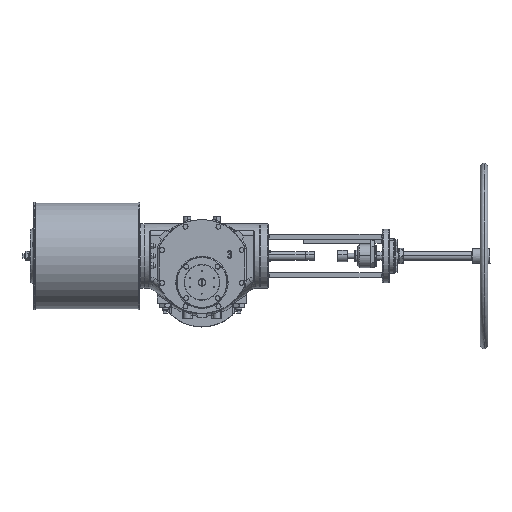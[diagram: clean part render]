
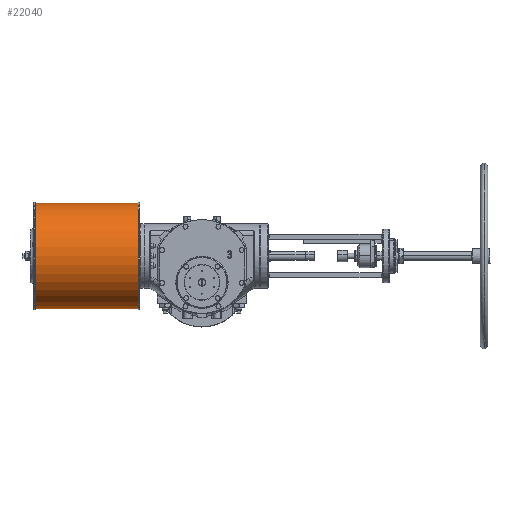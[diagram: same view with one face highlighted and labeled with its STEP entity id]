
A CAD part, top view. The second image highlights one B-rep face of the part: STEP entity #22040.
In plain terms, the highlighted cylindrical face has radius 177.8 mm (diameter 355.6 mm), a partial arc.
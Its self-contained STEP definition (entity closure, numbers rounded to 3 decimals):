
#1194 = DIRECTION ( 'NONE',  ( 1., 0., 0. ) ) ;
#1674 = DIRECTION ( 'NONE',  ( 0., 1., 0. ) ) ;
#3350 = LINE ( 'NONE', #75717, #81491 ) ;
#5537 = CARTESIAN_POINT ( 'NONE',  ( -562., 213.3, 74.5 ) ) ;
#8940 = CARTESIAN_POINT ( 'NONE',  ( -562., 35.5, 74.5 ) ) ;
#11713 = DIRECTION ( 'NONE',  ( 0., 1., 0. ) ) ;
#14071 = CARTESIAN_POINT ( 'NONE',  ( -562., -142.3, 74.5 ) ) ;
#15867 = ORIENTED_EDGE ( 'NONE', *, *, #41494, .T. ) ;
#20668 = DIRECTION ( 'NONE',  ( 0., 1., 0. ) ) ;
#22040 = ADVANCED_FACE ( 'NONE', ( #53599 ), #68671, .T. ) ;
#24782 = AXIS2_PLACEMENT_3D ( 'NONE', #26524, #56117, #20668 ) ;
#26524 = CARTESIAN_POINT ( 'NONE',  ( -562., 35.5, 74.5 ) ) ;
#27251 = DIRECTION ( 'NONE',  ( -1., 0., 0. ) ) ;
#31526 = DIRECTION ( 'NONE',  ( 1., 0., 0. ) ) ;
#34540 = CARTESIAN_POINT ( 'NONE',  ( -215., 35.5, 74.5 ) ) ;
#34678 = VERTEX_POINT ( 'NONE', #5537 ) ;
#36073 = ORIENTED_EDGE ( 'NONE', *, *, #88530, .T. ) ;
#36687 = VERTEX_POINT ( 'NONE', #66615 ) ;
#39305 = VECTOR ( 'NONE', #73311, 1000. ) ;
#41494 = EDGE_CURVE ( 'NONE', #34678, #53232, #66638, .T. ) ;
#44305 = CARTESIAN_POINT ( 'NONE',  ( -562., -142.3, 74.5 ) ) ;
#44619 = LINE ( 'NONE', #14071, #39305 ) ;
#47532 = EDGE_CURVE ( 'NONE', #53232, #36687, #44619, .T. ) ;
#50819 = CIRCLE ( 'NONE', #91202, 177.8 ) ;
#53232 = VERTEX_POINT ( 'NONE', #44305 ) ;
#53599 = FACE_OUTER_BOUND ( 'NONE', #92193, .T. ) ;
#56117 = DIRECTION ( 'NONE',  ( 1., 0., 0. ) ) ;
#66615 = CARTESIAN_POINT ( 'NONE',  ( -215., -142.3, 74.5 ) ) ;
#66638 = CIRCLE ( 'NONE', #24782, 177.8 ) ;
#68671 = CYLINDRICAL_SURFACE ( 'NONE', #92768, 177.8 ) ;
#73311 = DIRECTION ( 'NONE',  ( 1., 0., 0. ) ) ;
#75717 = CARTESIAN_POINT ( 'NONE',  ( -562., 213.3, 74.5 ) ) ;
#80212 = ORIENTED_EDGE ( 'NONE', *, *, #47532, .T. ) ;
#81491 = VECTOR ( 'NONE', #31526, 1000. ) ;
#81698 = VERTEX_POINT ( 'NONE', #85136 ) ;
#84415 = EDGE_CURVE ( 'NONE', #34678, #81698, #3350, .T. ) ;
#85136 = CARTESIAN_POINT ( 'NONE',  ( -215., 213.3, 74.5 ) ) ;
#88530 = EDGE_CURVE ( 'NONE', #36687, #81698, #50819, .T. ) ;
#88670 = ORIENTED_EDGE ( 'NONE', *, *, #84415, .F. ) ;
#91202 = AXIS2_PLACEMENT_3D ( 'NONE', #34540, #27251, #11713 ) ;
#92193 = EDGE_LOOP ( 'NONE', ( #15867, #80212, #36073, #88670 ) ) ;
#92768 = AXIS2_PLACEMENT_3D ( 'NONE', #8940, #1194, #1674 ) ;
